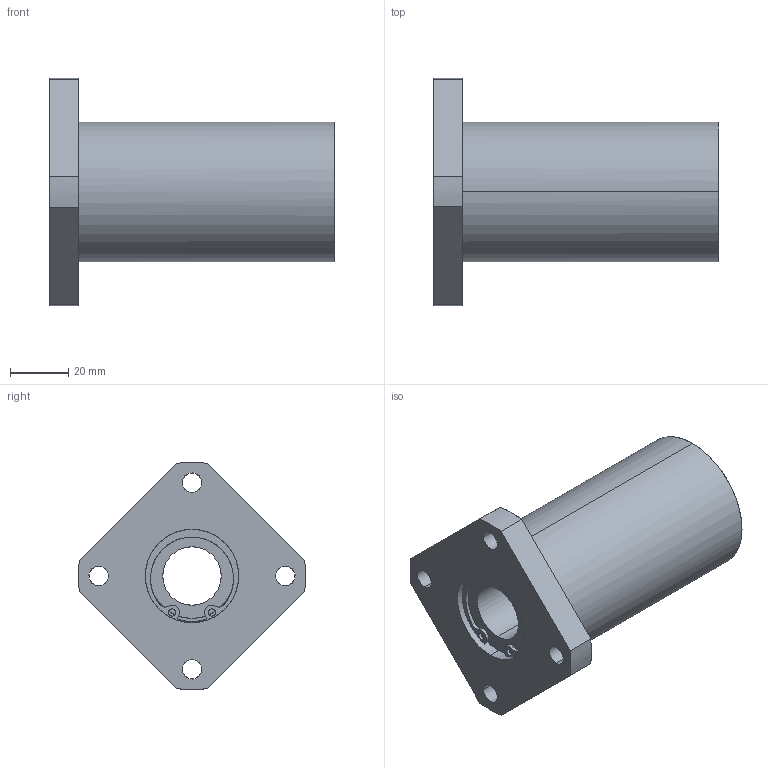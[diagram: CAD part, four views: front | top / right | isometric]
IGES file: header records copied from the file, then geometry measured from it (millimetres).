
Global section: file name: No Iges File Name specified; native system: AutoDesk Inventor R11.0; preprocessor: AutoDesk Inventor Iges Exporter R11.0; author: No Author specified; organization: No Organization specified; date: 20170921.174911; units: millimetre
Bounding box: 98 x 77.99 x 78 mm (x, y, z)
Surface area: 31085.9 mm2 (no closed solid volume)
Topology: 0 solids, 0 shells, 92 faces, 688 edges, 688 vertices
Faces by surface type: bspline 92
